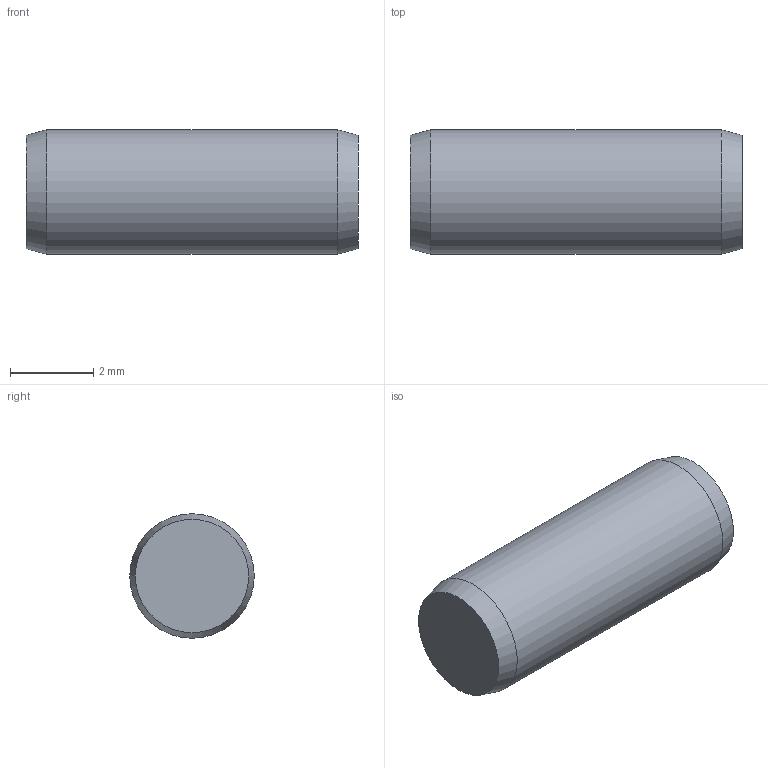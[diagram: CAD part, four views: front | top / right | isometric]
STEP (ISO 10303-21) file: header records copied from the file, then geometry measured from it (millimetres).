
FILE_DESCRIPTION(/* description */ ('평행 핀'),/* implementation_level */ '2;1');
FILE_NAME(/* name */ '',/* time_stamp */ '2024-04-08T11:14:45+09:00',/* author */ ('jhkim'),/* organization */ (''),/* preprocessor_version */ 'ST-DEVELOPER v20',/* originating_system */ 'Autodesk Inventor 2025',/* authorisation */ '');
FILE_SCHEMA (('AUTOMOTIVE_DESIGN { 1 0 10303 214 3 1 1 }'));
Length unit declared in the file: millimetre
Products named in the file (1): 핀 3 x 8
Bounding box: 8 x 3 x 3 mm (x, y, z)
Volume: 55.9 mm3; surface area: 87 mm2
Topology: 1 solids, 1 shells, 5 faces, 7 edges, 4 vertices
Faces by surface type: cone 2, plane 2, cylinder 1
Full cylindrical faces by diameter (mm): 3 x1
Entity records: 152 total; most frequent: DIRECTION 23, CARTESIAN_POINT 17, ORIENTED_EDGE 14, AXIS2_PLACEMENT_3D 10, EDGE_CURVE 7, FACE_OUTER_BOUND 5, EDGE_LOOP 5, ADVANCED_FACE 5
